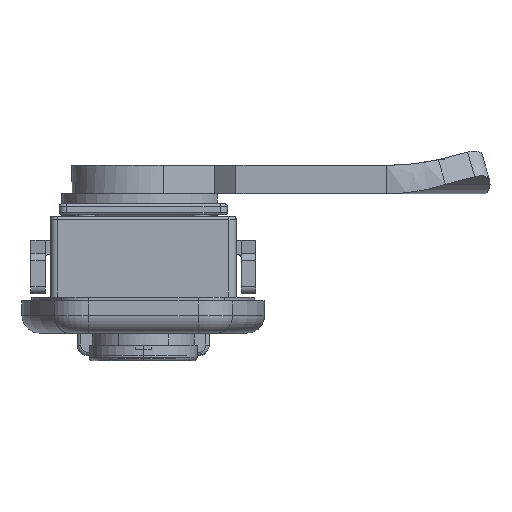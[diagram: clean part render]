
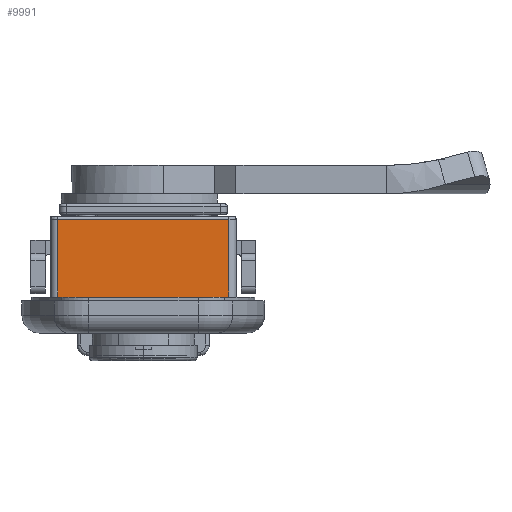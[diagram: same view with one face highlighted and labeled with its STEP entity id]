
A CAD part, front view. The second image highlights one B-rep face of the part: STEP entity #9991.
In plain terms, the highlighted planar face has unit normal (0, -1, 0).
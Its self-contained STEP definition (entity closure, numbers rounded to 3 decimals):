
#796=DIRECTION('',(0.,0.,-1.));
#797=VECTOR('',#796,12.4);
#798=CARTESIAN_POINT('',(-12.,-58.5,15.9));
#799=LINE('',#798,#797);
#804=DIRECTION('',(1.,0.,0.));
#805=VECTOR('',#804,24.);
#806=CARTESIAN_POINT('',(-12.,-58.5,3.5));
#807=LINE('',#806,#805);
#812=DIRECTION('',(0.,0.,1.));
#813=VECTOR('',#812,12.4);
#814=CARTESIAN_POINT('',(12.,-58.5,3.5));
#815=LINE('',#814,#813);
#930=DIRECTION('',(-1.,0.,0.));
#931=VECTOR('',#930,24.);
#932=CARTESIAN_POINT('',(12.,-58.5,15.9));
#933=LINE('',#932,#931);
#7839=CARTESIAN_POINT('',(12.,-58.5,15.9));
#7840=VERTEX_POINT('',#7839);
#7841=CARTESIAN_POINT('',(-12.,-58.5,15.9));
#7842=VERTEX_POINT('',#7841);
#7847=CARTESIAN_POINT('',(12.,-58.5,3.5));
#7848=VERTEX_POINT('',#7847);
#7915=CARTESIAN_POINT('',(-12.,-58.5,3.5));
#7917=VERTEX_POINT('',#7915);
#9978=CARTESIAN_POINT('',(0.,-58.5,9.7));
#9979=DIRECTION('',(0.,1.,0.));
#9980=DIRECTION('',(1.,0.,0.));
#9981=AXIS2_PLACEMENT_3D('',#9978,#9979,#9980);
#9982=PLANE('',#9981);
#9984=ORIENTED_EDGE('',*,*,#9983,.F.);
#9985=ORIENTED_EDGE('',*,*,#9940,.F.);
#9986=ORIENTED_EDGE('',*,*,#9968,.F.);
#9988=ORIENTED_EDGE('',*,*,#9987,.F.);
#9989=EDGE_LOOP('',(#9984,#9985,#9986,#9988));
#9990=FACE_OUTER_BOUND('',#9989,.F.);
#9991=ADVANCED_FACE('',(#9990),#9982,.F.);
#9940=EDGE_CURVE('',#7917,#7848,#807,.T.);
#9968=EDGE_CURVE('',#7842,#7917,#799,.T.);
#9983=EDGE_CURVE('',#7848,#7840,#815,.T.);
#9987=EDGE_CURVE('',#7840,#7842,#933,.T.);
